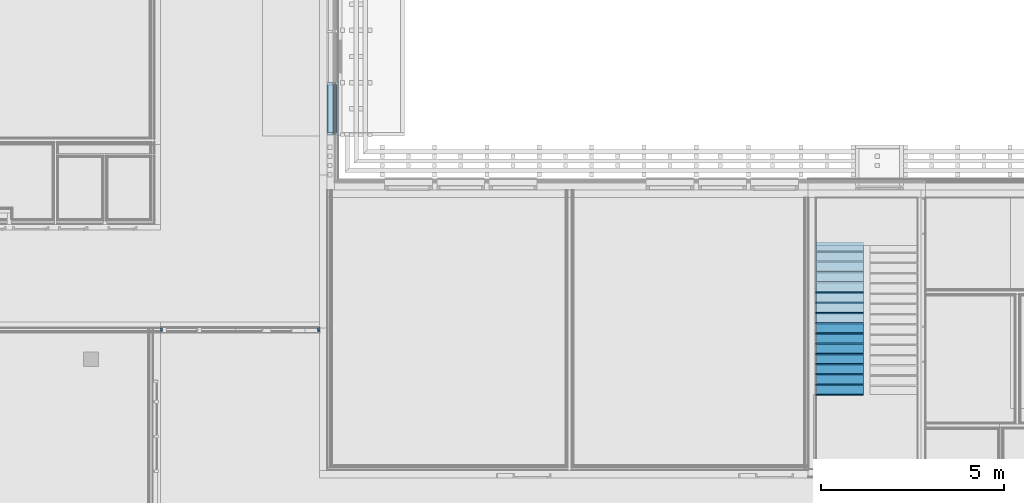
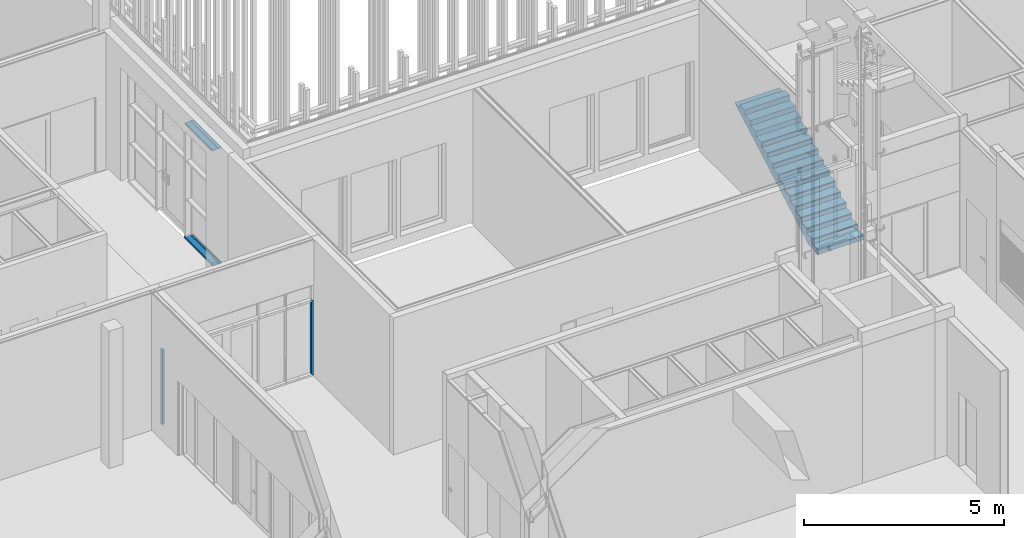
# One storey, part 84 of 260: 25 members, 4 elements without a shape of their own.
"""IFC2X3 building model written with IfcOpenShell, lengths in millimetres."""

from ifc_helpers import new_model, entity, si_unit, converted_unit, derived_unit, money_unit, direction, frame, origin_with_axes, place, context, subcontext, project, spatial, faceted_brep, material, type_object, element, aggregate, save


model = new_model("IFC2X3")

# Units and contexts
model_context = context("Model", 3, precision=0.01, world=origin_with_axes(), true_north=direction((0.0, 1.0)))
body_context = subcontext(model_context, "Body", "Model", "MODEL_VIEW")
ifc_project = project(units=[si_unit("LENGTHUNIT", "METRE", prefix="MILLI"), si_unit("AREAUNIT", "SQUARE_METRE"), si_unit("VOLUMEUNIT", "CUBIC_METRE"), converted_unit("PLANEANGLEUNIT", "DEGREE", entity("IfcPlaneAngleMeasure", 0.0174532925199), si_unit("PLANEANGLEUNIT", "RADIAN"), dimensions=[0, 0, 0, 0, 0, 0, 0]), money_unit("EUR"), converted_unit("TIMEUNIT", "Year", entity("IfcTimeMeasure", 31556926.0), si_unit("TIMEUNIT", "SECOND"), dimensions=[0, 0, 1, 0, 0, 0, 0]), si_unit("MASSUNIT", "GRAM", prefix="KILO"), si_unit("THERMODYNAMICTEMPERATUREUNIT", "DEGREE_CELSIUS"), si_unit("LUMINOUSINTENSITYUNIT", "LUMEN"), si_unit("ENERGYUNIT", "JOULE", prefix="MEGA"), derived_unit("THERMALCONDUCTANCEUNIT", [(si_unit("POWERUNIT", "WATT"), 1), (si_unit("LENGTHUNIT", "METRE"), -1), (si_unit("THERMODYNAMICTEMPERATUREUNIT", "KELVIN"), -1)]), derived_unit("SPECIFICHEATCAPACITYUNIT", [(si_unit("ENERGYUNIT", "JOULE"), 1), (si_unit("MASSUNIT", "GRAM", prefix="KILO"), -1), (si_unit("THERMODYNAMICTEMPERATUREUNIT", "KELVIN"), -1)]), derived_unit("MASSDENSITYUNIT", [(si_unit("MASSUNIT", "GRAM", prefix="KILO"), 1), (si_unit("VOLUMEUNIT", "CUBIC_METRE"), -1)])], contexts=[model_context])

# Site, building, storey
site_placement = place(None, origin_with_axes())
site = spatial("IfcSite", under=ifc_project, at=site_placement, Name="Kolde pst 67a", CompositionType="ELEMENT")
building_placement = place(site_placement, origin_with_axes())
building = spatial("IfcBuilding", under=site, at=building_placement, Name="Riigigümnaasium", CompositionType="ELEMENT")
storey_placement = place(building_placement, origin_with_axes())
storey = spatial("IfcBuildingStorey", under=building, at=storey_placement, Name="1. korrus", CompositionType="ELEMENT", Elevation=0.0)

# Stair, members
stair_placement = place(storey_placement, frame((51080.0647046, 55109.9959971, 0.0), z_axis=(0.0, 0.0, 1.0), x_axis=(-2.45133837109e-05, 0.9999999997, 0.0)))
stair = element("IfcStair", 1, at=stair_placement, inside=storey, Name="TREPP", ShapeType="NOTDEFINED")
ifc_material_1 = material(Name="_KANDETARIND - raudbetoon C25/30 vastavalt EK osale")
member_type_1 = type_object("IfcMemberType", Name="IfcMember", PredefinedType="USERDEFINED")
member_1_placement = place(stair_placement, origin_with_axes())
member_1 = element("IfcMember", 2, at=member_1_placement, type_object=member_type_1, material=ifc_material_1, Name="TT KONSTRUKTSIOON - 010", ObjectType="Stair Structure", context=body_context, shape_type="Brep", body=[
    faceted_brep([(3639.99955388, -20.0489610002, 2190.68965517), (3639.99953115, -20.04896107, 2099.31034483), (3640.01721975, 1279.95103888, 2099.31034483), (3640.01721673, 1279.95103888, 2190.68965517), (3546.66627948, -20.0477136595, 1890.95799576), (3593.33291668, -20.0483413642, 1917.39477427), (3639.99953115, -20.04896107, 1943.8315399), (3914.45332988, -20.0526893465, 2099.31034483), (3389.99973068, -20.045598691, 2190.68965517), (3389.99973068, -20.045598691, 2032.06896552), (3109.9997307, -20.041832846, 2032.06896552), (3109.9997307, -20.041832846, 1873.44827586), (2829.99973073, -20.0380653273, 1873.44827586), (2829.99973073, -20.0380653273, 1714.82758621), (2549.99973075, -20.0342994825, 1714.82758621), (2549.99973075, -20.0342994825, 1556.20689655), (2269.99973078, -20.0305336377, 1556.20689655), (2269.99973078, -20.0305336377, 1397.5862069), (1989.9997308, -20.0267677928, 1397.5862069), (1989.9997308, -20.0267677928, 1238.96551724), (1709.99973083, -20.0230002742, 1238.96551724), (1709.99973083, -20.0230002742, 1080.34482759), (1429.99973085, -20.0192344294, 1080.34482759), (1429.99973085, -20.0192344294, 921.724137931), (1149.99973088, -20.0154685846, 921.724137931), (1149.99973088, -20.0154685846, 763.103448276), (869.999730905, -20.0117027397, 763.103448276), (869.999730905, -20.0117027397, 604.482758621), (589.99973093, -20.0079352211, 604.482758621), (589.99973093, -20.0079352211, 445.862068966), (309.999730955, -20.0041693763, 445.862068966), (309.999730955, -20.0041693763, 287.24137931), (29.9997309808, -20.0004035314, 287.24137931), (29.9997309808, -20.0004035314, 128.620689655), (-250.000268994, -19.9966376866, 128.620689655), (-250.000268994, -19.9966376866, 0.0), (208.714428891, -20.0028105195, 0.0), (279.999730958, -20.0037663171, 40.3832992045), (373.333064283, -20.0050217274, 93.2568624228), (466.666397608, -20.0062771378, 146.130425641), (559.999730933, -20.0075324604, 199.00398886), (653.333064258, -20.0087878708, 251.877552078), (746.666397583, -20.0100432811, 304.751115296), (839.999730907, -20.0112986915, 357.624678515), (933.333064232, -20.0125541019, 410.498241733), (1026.66639756, -20.0138095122, 463.371804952), (1119.99973088, -20.0150649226, 516.24536817), (1213.33306421, -20.0163257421, 569.118931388), (1306.66639753, -20.0175811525, 621.992494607), (1399.99973086, -20.0188325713, 674.866057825), (1493.33306418, -20.0200879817, 727.739621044), (1586.66639751, -20.0213433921, 780.613184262), (1679.99973083, -20.0225973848, 833.48674748), (1773.33306416, -20.0238527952, 886.360310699), (1866.66639748, -20.0251082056, 939.233873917), (1959.99973081, -20.0263636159, 992.107437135), (2053.33306413, -20.0276190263, 1044.98100035), (2146.66639746, -20.0288744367, 1097.85456357), (2239.99973078, -20.030129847, 1150.72812679), (2333.33306411, -20.0313919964, 1203.60169001), (2426.66639743, -20.0326474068, 1256.47525323), (2519.99973076, -20.0338988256, 1309.34881644), (2613.33306408, -20.035154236, 1362.22237962), (2706.66639741, -20.0364096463, 1415.09594272), (2799.99973073, -20.0376623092, 1467.96950577), (2846.66639739, -20.0382900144, 1494.40628704), (2893.33306406, -20.0389177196, 1520.84306831), (2939.99973072, -20.0395454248, 1547.2798495), (2986.66639738, -20.04017313, 1573.71663068), (3033.33306404, -20.0408008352, 1600.15341171), (3079.9997307, -20.0414285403, 1626.59019274), (3126.66639737, -20.0420562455, 1653.02697506), (3173.33306403, -20.0426839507, 1679.46375739), (3219.99973069, -20.0433116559, 1705.90053948), (3266.66639735, -20.0439393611, 1732.33732157), (3313.33306402, -20.0445670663, 1758.77410513), (3359.99973068, -20.0451947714, 1785.21088869), (3406.66636788, -20.0458305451, 1811.6476646), (3453.33300508, -20.0464582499, 1838.08444051), (3499.99964228, -20.0470859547, 1864.52121814), (3914.47100043, 1279.9473106, 2099.31034483), (3390.01721675, 1279.95440206, 2190.68965517), (3640.01721975, 1279.95103888, 1943.83155449), (3593.35055006, 1279.95167145, 1917.39477472), (3546.6838834, 1279.95229915, 1890.95799665), (3500.01721674, 1279.95292686, 1864.52121839), (3453.35055008, 1279.95355456, 1838.08444012), (3406.68388342, 1279.95418227, 1811.64766127), (3360.01721675, 1279.95480997, 1785.21088242), (3313.35055009, 1279.95543768, 1758.77410163), (3266.68388343, 1279.95606539, 1732.33732084), (3220.01721677, 1279.95669309, 1705.90053967), (3173.3505501, 1279.9573208, 1679.4637585), (3126.68388344, 1279.9579485, 1653.02697719), (3080.01721678, 1279.95857621, 1626.59019589), (3033.35055012, 1279.95920391, 1600.15341429), (2986.68388345, 1279.95983162, 1573.71663268), (2940.01721679, 1279.96045932, 1547.27985105), (2893.35055013, 1279.96108703, 1520.84306941), (2846.68388347, 1279.96171473, 1494.40628777), (2800.0172168, 1279.96234244, 1467.96950606), (2706.68388348, 1279.96359785, 1415.09594287), (2613.35055015, 1279.96485326, 1362.22237966), (2520.01721683, 1279.96610867, 1309.34881644), (2426.6838835, 1279.96736408, 1256.47525322), (2333.35055018, 1279.96861949, 1203.60169001), (2240.01721685, 1279.9698749, 1150.72812679), (2146.68388353, 1279.97113031, 1097.85456357), (2053.3505502, 1279.97238572, 1044.98100035), (1960.01721688, 1279.97364113, 992.107437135), (1866.68388355, 1279.97489654, 939.233873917), (1773.35055023, 1279.97615195, 886.360310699), (1680.0172169, 1279.97740736, 833.48674748), (1586.68388358, 1279.97866277, 780.613184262), (1493.35055025, 1279.97991818, 727.739621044), (1400.01721693, 1279.98117359, 674.866057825), (1306.68388361, 1279.982429, 621.992494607), (1213.35055028, 1279.98368441, 569.118931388), (1120.01721696, 1279.98493982, 516.24536817), (1026.68388363, 1279.98619523, 463.371804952), (933.350550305, 1279.98745064, 410.498241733), (840.017216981, 1279.98870605, 357.624678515), (746.683883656, 1279.98996147, 304.751115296), (653.350550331, 1279.99121688, 251.877552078), (560.017217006, 1279.99247229, 199.00398886), (466.683883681, 1279.9937277, 146.130425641), (373.350550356, 1279.99498311, 93.2568624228), (280.017217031, 1279.99623852, 40.3832992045), (208.731914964, 1279.99719736, 0.0), (-249.982782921, 1280.00336306, 0.0), (-249.982782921, 1280.00336306, 128.620689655), (30.0172170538, 1279.99959683, 128.620689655), (30.0172170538, 1279.99959683, 287.24137931), (310.017217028, 1279.9958306, 287.24137931), (310.017217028, 1279.9958306, 445.862068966), (590.017217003, 1279.99206437, 445.862068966), (590.017217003, 1279.99206437, 604.482758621), (870.017216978, 1279.98829814, 604.482758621), (870.017216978, 1279.98829814, 763.103448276), (1150.01721695, 1279.98453191, 763.103448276), (1150.01721695, 1279.98453191, 921.724137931), (1430.01721693, 1279.98076567, 921.724137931), (1430.01721693, 1279.98076567, 1080.34482759), (1710.0172169, 1279.97699944, 1080.34482759), (1710.0172169, 1279.97699944, 1238.96551724), (1990.01721688, 1279.97323321, 1238.96551724), (1990.01721688, 1279.97323321, 1397.5862069), (2270.01721685, 1279.96946698, 1397.5862069), (2270.01721685, 1279.96946698, 1556.20689655), (2550.01721683, 1279.96570075, 1556.20689655), (2550.01721683, 1279.96570075, 1714.82758621), (2830.0172168, 1279.96193452, 1714.82758621), (2830.0172168, 1279.96193452, 1873.44827586), (3110.01721678, 1279.95816829, 1873.44827586), (3110.01721678, 1279.95816829, 2032.06896552), (3390.01721675, 1279.95440206, 2032.06896552), (3546.67068046, 304.952289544, 1890.95799598), (3640.0039533, 304.951034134, 1943.83154355), (3640.0127976, 954.951040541, 1943.83155085), (2800.01284528, 954.962341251, 1467.96950601), (2800.00410225, 304.962338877, 1467.96950586), (2893.33743557, 304.961083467, 1520.84306859), (2986.6707689, 304.959828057, 1573.71663118), (3080.00410222, 304.958572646, 1626.59019353), (3173.33743555, 304.957317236, 1679.46375767), (3266.67076887, 304.956061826, 1732.33732139), (3360.0041022, 304.954806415, 1785.21088712), (3453.33739133, 304.953544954, 1838.08444041), (3546.67948242, 954.952295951, 1890.95799643), (3453.34616383, 954.953551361, 1838.08444022), (3360.01284523, 954.954808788, 1785.21088399), (3266.67951191, 954.956064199, 1732.33732102), (3173.34617858, 954.957319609, 1679.46375822), (3080.01284526, 954.958575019, 1626.5901951), (2986.67951193, 954.95983043, 1573.71663218), (2893.34617861, 954.96108584, 1520.84306914), (3593.34173337, 629.951665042, 1917.39477449), (2846.67514043, 629.961712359, 1494.40628741), (2940.00847375, 629.960456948, 1547.27985027), (3033.34180708, 629.959201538, 1600.153413), (3126.6751404, 629.957946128, 1653.02697613), (3220.00847373, 629.956690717, 1705.90053958), (3313.34180705, 629.955435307, 1758.77410338), (3406.67512565, 629.954175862, 1811.64766294), (3500.00842951, 629.952920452, 1864.52121826)], [[[0, 1, 2, 3]], [[4, 5, 6, 7, 1, 0, 8, 9, 10, 11, 12, 13, 14, 15, 16, 17, 18, 19, 20, 21, 22, 23, 24, 25, 26, 27, 28, 29, 30, 31, 32, 33, 34, 35, 36, 37, 38, 39, 40, 41, 42, 43, 44, 45, 46, 47, 48, 49, 50, 51, 52, 53, 54, 55, 56, 57, 58, 59, 60, 61, 62, 63, 64, 65, 66, 67, 68, 69, 70, 71, 72, 73, 74, 75, 76, 77, 78, 79]], [[80, 2, 1, 7]], [[81, 3, 2, 80, 82, 83, 84, 85, 86, 87, 88, 89, 90, 91, 92, 93, 94, 95, 96, 97, 98, 99, 100, 101, 102, 103, 104, 105, 106, 107, 108, 109, 110, 111, 112, 113, 114, 115, 116, 117, 118, 119, 120, 121, 122, 123, 124, 125, 126, 127, 128, 129, 130, 131, 132, 133, 134, 135, 136, 137, 138, 139, 140, 141, 142, 143, 144, 145, 146, 147, 148, 149, 150, 151, 152, 153, 154, 155]], [[8, 0, 3, 81]], [[5, 4, 156]], [[5, 157, 6]], [[7, 6, 157, 158, 82, 80]], [[155, 9, 8, 81]], [[155, 154, 10, 9]], [[153, 11, 10, 154]], [[153, 152, 12, 11]], [[151, 13, 12, 152]], [[151, 150, 14, 13]], [[149, 15, 14, 150]], [[149, 148, 16, 15]], [[147, 17, 16, 148]], [[147, 146, 18, 17]], [[145, 19, 18, 146]], [[145, 144, 20, 19]], [[143, 21, 20, 144]], [[143, 142, 22, 21]], [[141, 23, 22, 142]], [[141, 140, 24, 23]], [[139, 25, 24, 140]], [[139, 138, 26, 25]], [[137, 27, 26, 138]], [[137, 136, 28, 27]], [[135, 29, 28, 136]], [[135, 134, 30, 29]], [[133, 31, 30, 134]], [[133, 132, 32, 31]], [[131, 33, 32, 132]], [[131, 130, 34, 33]], [[130, 129, 35, 34]], [[35, 129, 128, 36]], [[128, 127, 37, 36]], [[127, 126, 38, 37]], [[126, 125, 39, 38]], [[125, 124, 40, 39]], [[124, 123, 41, 40]], [[123, 122, 42, 41]], [[122, 121, 43, 42]], [[121, 120, 44, 43]], [[120, 119, 45, 44]], [[119, 118, 46, 45]], [[118, 117, 47, 46]], [[117, 116, 48, 47]], [[116, 115, 49, 48]], [[115, 114, 50, 49]], [[114, 113, 51, 50]], [[113, 112, 52, 51]], [[112, 111, 53, 52]], [[111, 110, 54, 53]], [[110, 109, 55, 54]], [[109, 108, 56, 55]], [[108, 107, 57, 56]], [[107, 106, 58, 57]], [[106, 105, 59, 58]], [[105, 104, 60, 59]], [[104, 103, 61, 60]], [[103, 102, 62, 61]], [[102, 101, 63, 62]], [[101, 100, 159, 160, 64, 63]], [[65, 64, 160]], [[66, 65, 161]], [[67, 66, 161]], [[68, 67, 162]], [[69, 68, 162]], [[70, 69, 163]], [[71, 70, 163]], [[72, 71, 164]], [[73, 72, 164]], [[74, 73, 165]], [[75, 74, 165]], [[76, 75, 166]], [[77, 76, 166]], [[78, 77, 167]], [[79, 78, 167]], [[4, 79, 156]], [[83, 82, 158]], [[84, 83, 168]], [[85, 84, 168]], [[86, 85, 169]], [[87, 86, 169]], [[88, 87, 170]], [[89, 88, 170]], [[90, 89, 171]], [[91, 90, 171]], [[92, 91, 172]], [[93, 92, 172]], [[94, 93, 173]], [[95, 94, 173]], [[96, 95, 174]], [[97, 96, 174]], [[98, 97, 175]], [[99, 98, 175]], [[100, 99, 159]], [[157, 5, 156, 176]], [[176, 158, 157]], [[177, 160, 159]], [[161, 65, 160, 177]], [[162, 67, 161, 178]], [[163, 69, 162, 179]], [[180, 164, 71, 163]], [[165, 73, 164, 181]], [[166, 75, 165, 182]], [[183, 167, 77, 166]], [[184, 156, 79, 167]], [[83, 158, 176, 168]], [[168, 184, 169, 85]], [[169, 183, 170, 87]], [[89, 170, 182, 171]], [[91, 171, 181, 172]], [[172, 180, 173, 93]], [[95, 173, 179, 174]], [[174, 178, 175, 97]], [[99, 175, 177, 159]], [[168, 176, 156]], [[175, 161, 177]], [[175, 178, 161]], [[174, 162, 178]], [[179, 162, 174]], [[173, 163, 179]], [[172, 164, 180]], [[180, 163, 173]], [[181, 164, 172]], [[165, 181, 171]], [[182, 165, 171]], [[170, 166, 182]], [[167, 183, 169]], [[170, 183, 166]], [[168, 156, 184]], [[169, 184, 167]]]),
])
ifc_material_2 = material(Name="_VIIMISTLUSKIHT - viimistlus vastavalt SA osale")
member_type_2 = type_object("IfcMemberType", Name="IfcMember", PredefinedType="USERDEFINED")
member_2_placement = place(stair_placement, frame((-279.991256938, 650.003766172, 128.620689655), z_axis=(0.0, 0.0, 1.0), x_axis=(1.34508253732e-05, 0.99999999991, 0.0)))
member_2 = element("IfcMember", 3, at=member_2_placement, type_object=member_type_2, material=ifc_material_2, Name="TV TÕUS - 146", ObjectType="Stair Riser", context=body_context, shape_type="Brep", body=[
    faceted_brep([(630.0, 0.0, 0.0), (-670.0, 0.0, 0.0), (-670.0, -30.0, 0.0), (630.0, -30.0, 0.0), (630.0, 0.0, -128.620689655), (-670.0, 0.0, -128.620689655), (-670.0, -30.0, -128.620689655), (630.0, -30.0, -128.620689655)], [[[0, 1, 2, 3]], [[4, 5, 1, 0]], [[1, 5, 6, 2]], [[3, 2, 6, 7]], [[0, 3, 7, 4]], [[7, 6, 5, 4]]]),
])
member_3_placement = place(stair_placement, frame((0.00874303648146, 649.999999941, 287.24137931), z_axis=(0.0, 0.0, 1.0), x_axis=(1.34508253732e-05, 0.99999999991, 0.0)))
member_3 = element("IfcMember", 4, at=member_3_placement, type_object=member_type_2, material=ifc_material_2, Name="TV TÕUS - 147", ObjectType="Stair Riser", context=body_context, shape_type="Brep", body=[
    faceted_brep([(630.0, 0.0, 0.0), (-670.0, 0.0, 0.0), (-670.0, -30.0, 0.0), (630.0, -30.0, 0.0), (630.0, 0.0, -128.620689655), (-670.0, 0.0, -128.620689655), (-670.0, -30.0, -128.620689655), (630.0, -30.0, -128.620689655)], [[[0, 1, 2, 3]], [[4, 5, 1, 0]], [[1, 5, 6, 2]], [[3, 2, 6, 7]], [[0, 3, 7, 4]], [[7, 6, 5, 4]]]),
])
member_4_placement = place(stair_placement, frame((280.008743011, 649.99623371, 445.862068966), z_axis=(0.0, 0.0, 1.0), x_axis=(1.34508253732e-05, 0.99999999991, 0.0)))
member_4 = element("IfcMember", 5, at=member_4_placement, type_object=member_type_2, material=ifc_material_2, Name="TV TÕUS - 148", ObjectType="Stair Riser", context=body_context, shape_type="Brep", body=[
    faceted_brep([(630.0, 0.0, 0.0), (-670.0, 0.0, 0.0), (-670.0, -30.0, 0.0), (630.0, -30.0, 0.0), (630.0, 0.0, -128.620689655), (-670.0, 0.0, -128.620689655), (-670.0, -30.0, -128.620689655), (630.0, -30.0, -128.620689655)], [[[0, 1, 2, 3]], [[4, 5, 1, 0]], [[1, 5, 6, 2]], [[3, 2, 6, 7]], [[0, 3, 7, 4]], [[7, 6, 5, 4]]]),
])
member_5_placement = place(stair_placement, frame((560.008742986, 649.992467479, 604.482758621), z_axis=(0.0, 0.0, 1.0), x_axis=(1.34508253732e-05, 0.99999999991, 0.0)))
member_5 = element("IfcMember", 6, at=member_5_placement, type_object=member_type_2, material=ifc_material_2, Name="TV TÕUS - 149", ObjectType="Stair Riser", context=body_context, shape_type="Brep", body=[
    faceted_brep([(630.0, 0.0, 0.0), (-670.0, 0.0, 0.0), (-670.0, -30.0, 0.0), (630.0, -30.0, 0.0), (630.0, 0.0, -128.620689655), (-670.0, 0.0, -128.620689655), (-670.0, -30.0, -128.620689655), (630.0, -30.0, -128.620689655)], [[[0, 1, 2, 3]], [[4, 5, 1, 0]], [[1, 5, 6, 2]], [[3, 2, 6, 7]], [[0, 3, 7, 4]], [[7, 6, 5, 4]]]),
])
member_6_placement = place(stair_placement, frame((840.00874296, 649.988701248, 763.103448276), z_axis=(0.0, 0.0, 1.0), x_axis=(1.34508253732e-05, 0.99999999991, 0.0)))
member_6 = element("IfcMember", 7, at=member_6_placement, type_object=member_type_2, material=ifc_material_2, Name="TV TÕUS - 150", ObjectType="Stair Riser", context=body_context, shape_type="Brep", body=[
    faceted_brep([(630.0, 0.0, 0.0), (-670.0, 0.0, 0.0), (-670.0, -30.0, 0.0), (630.0, -30.0, 0.0), (630.0, 0.0, -128.620689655), (-670.0, 0.0, -128.620689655), (-670.0, -30.0, -128.620689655), (630.0, -30.0, -128.620689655)], [[[0, 1, 2, 3]], [[4, 5, 1, 0]], [[1, 5, 6, 2]], [[3, 2, 6, 7]], [[0, 3, 7, 4]], [[7, 6, 5, 4]]]),
])
member_7_placement = place(stair_placement, frame((1120.00874294, 649.984935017, 921.724137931), z_axis=(0.0, 0.0, 1.0), x_axis=(1.3450825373e-05, 0.99999999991, 0.0)))
member_7 = element("IfcMember", 8, at=member_7_placement, type_object=member_type_2, material=ifc_material_2, Name="TV TÕUS - 151", ObjectType="Stair Riser", context=body_context, shape_type="Brep", body=[
    faceted_brep([(630.0, 0.0, 0.0), (-670.0, 0.0, 0.0), (-670.0, -30.0, 0.0), (630.0, -30.0, 0.0), (630.0, 0.0, -128.620689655), (-670.0, 0.0, -128.620689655), (-670.0, -30.0, -128.620689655), (630.0, -30.0, -128.620689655)], [[[0, 1, 2, 3]], [[4, 5, 1, 0]], [[1, 5, 6, 2]], [[3, 2, 6, 7]], [[0, 3, 7, 4]], [[7, 6, 5, 4]]]),
])
member_8_placement = place(stair_placement, frame((1400.00874291, 649.981168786, 1080.34482759), z_axis=(0.0, 0.0, 1.0), x_axis=(1.3450825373e-05, 0.99999999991, 0.0)))
member_8 = element("IfcMember", 9, at=member_8_placement, type_object=member_type_2, material=ifc_material_2, Name="TV TÕUS - 152", ObjectType="Stair Riser", context=body_context, shape_type="Brep", body=[
    faceted_brep([(630.0, 0.0, 0.0), (-670.0, 0.0, 0.0), (-670.0, -30.0, 0.0), (630.0, -30.0, 0.0), (630.0, 0.0, -128.620689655), (-670.0, 0.0, -128.620689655), (-670.0, -30.0, -128.620689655), (630.0, -30.0, -128.620689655)], [[[0, 1, 2, 3]], [[4, 5, 1, 0]], [[1, 5, 6, 2]], [[3, 2, 6, 7]], [[0, 3, 7, 4]], [[7, 6, 5, 4]]]),
])
member_9_placement = place(stair_placement, frame((1680.00874288, 649.977402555, 1238.96551724), z_axis=(0.0, 0.0, 1.0), x_axis=(1.34508253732e-05, 0.99999999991, 0.0)))
member_9 = element("IfcMember", 10, at=member_9_placement, type_object=member_type_2, material=ifc_material_2, Name="TV TÕUS - 153", ObjectType="Stair Riser", context=body_context, shape_type="Brep", body=[
    faceted_brep([(630.0, 0.0, 0.0), (-670.0, 0.0, 0.0), (-670.0, -30.0, 0.0), (630.0, -30.0, 0.0), (630.0, 0.0, -128.620689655), (-670.0, 0.0, -128.620689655), (-670.0, -30.0, -128.620689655), (630.0, -30.0, -128.620689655)], [[[0, 1, 2, 3]], [[4, 5, 1, 0]], [[1, 5, 6, 2]], [[3, 2, 6, 7]], [[0, 3, 7, 4]], [[7, 6, 5, 4]]]),
])
member_10_placement = place(stair_placement, frame((1960.00874286, 649.973636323, 1397.5862069), z_axis=(0.0, 0.0, 1.0), x_axis=(1.34508253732e-05, 0.99999999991, 0.0)))
member_10 = element("IfcMember", 11, at=member_10_placement, type_object=member_type_2, material=ifc_material_2, Name="TV TÕUS - 154", ObjectType="Stair Riser", context=body_context, shape_type="Brep", body=[
    faceted_brep([(630.0, 0.0, 0.0), (-670.0, 0.0, 0.0), (-670.0, -30.0, 0.0), (630.0, -30.0, 0.0), (630.0, 0.0, -128.620689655), (-670.0, 0.0, -128.620689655), (-670.0, -30.0, -128.620689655), (630.0, -30.0, -128.620689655)], [[[0, 1, 2, 3]], [[4, 5, 1, 0]], [[1, 5, 6, 2]], [[3, 2, 6, 7]], [[0, 3, 7, 4]], [[7, 6, 5, 4]]]),
])
member_11_placement = place(stair_placement, frame((2240.00874283, 649.969870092, 1556.20689655), z_axis=(0.0, 0.0, 1.0), x_axis=(1.34508253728e-05, 0.99999999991, 0.0)))
member_11 = element("IfcMember", 12, at=member_11_placement, type_object=member_type_2, material=ifc_material_2, Name="TV TÕUS - 155", ObjectType="Stair Riser", context=body_context, shape_type="Brep", body=[
    faceted_brep([(630.0, 0.0, 0.0), (-670.0, 0.0, 0.0), (-670.0, -30.0, 0.0), (630.0, -30.0, 0.0), (630.0, 0.0, -128.620689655), (-670.0, 0.0, -128.620689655), (-670.0, -30.0, -128.620689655), (630.0, -30.0, -128.620689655)], [[[0, 1, 2, 3]], [[4, 5, 1, 0]], [[1, 5, 6, 2]], [[3, 2, 6, 7]], [[0, 3, 7, 4]], [[7, 6, 5, 4]]]),
])
member_12_placement = place(stair_placement, frame((2520.00874281, 649.966103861, 1714.82758621), z_axis=(0.0, 0.0, 1.0), x_axis=(1.34508253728e-05, 0.99999999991, 0.0)))
member_12 = element("IfcMember", 13, at=member_12_placement, type_object=member_type_2, material=ifc_material_2, Name="TV TÕUS - 156", ObjectType="Stair Riser", context=body_context, shape_type="Brep", body=[
    faceted_brep([(630.0, 0.0, 0.0), (-670.0, 0.0, 0.0), (-670.0, -30.0, 0.0), (630.0, -30.0, 0.0), (630.0, 0.0, -128.620689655), (-670.0, 0.0, -128.620689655), (-670.0, -30.0, -128.620689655), (630.0, -30.0, -128.620689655)], [[[0, 1, 2, 3]], [[4, 5, 1, 0]], [[1, 5, 6, 2]], [[3, 2, 6, 7]], [[0, 3, 7, 4]], [[7, 6, 5, 4]]]),
])
member_type_3 = type_object("IfcMemberType", Name="IfcMember", PredefinedType="USERDEFINED")
member_13_placement = place(stair_placement, frame((-279.991256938, 650.003766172, 158.620689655), z_axis=(0.0, 0.0, 1.0), x_axis=(1.34508253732e-05, 0.99999999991, 0.0)))
member_13 = element("IfcMember", 14, at=member_13_placement, type_object=member_type_3, material=ifc_material_2, Name="TV ASTE - 146", ObjectType="Stair Tread", context=body_context, shape_type="Brep", body=[
    faceted_brep([(-670.0, 0.0, -30.0), (-670.0, 0.0, 0.0), (630.0, 0.0, 0.0), (630.0, 0.0, -30.0), (-670.0, -309.999993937, -30.0), (-670.0, -309.999993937, 0.0), (630.0, -310.00000041, 0.0), (630.0, -310.00000041, -30.0)], [[[0, 1, 2, 3]], [[4, 5, 1, 0]], [[1, 5, 6, 2]], [[3, 2, 6, 7]], [[0, 3, 7, 4]], [[7, 6, 5, 4]]]),
])
member_14_placement = place(stair_placement, frame((0.00874303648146, 649.999999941, 317.24137931), z_axis=(0.0, 0.0, 1.0), x_axis=(1.34508253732e-05, 0.99999999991, 0.0)))
member_14 = element("IfcMember", 15, at=member_14_placement, type_object=member_type_3, material=ifc_material_2, Name="TV ASTE - 147", ObjectType="Stair Tread", context=body_context, shape_type="Brep", body=[
    faceted_brep([(-670.0, 0.0, -30.0), (-670.0, 0.0, 0.0), (630.0, 0.0, 0.0), (630.0, 0.0, -30.0), (-670.0, -309.999993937, -30.0), (-670.0, -309.999993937, 0.0), (630.0, -310.00000041, 0.0), (630.0, -310.00000041, -30.0)], [[[0, 1, 2, 3]], [[4, 5, 1, 0]], [[1, 5, 6, 2]], [[3, 2, 6, 7]], [[0, 3, 7, 4]], [[7, 6, 5, 4]]]),
])
member_15_placement = place(stair_placement, frame((280.008743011, 649.99623371, 475.862068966), z_axis=(0.0, 0.0, 1.0), x_axis=(1.34508253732e-05, 0.99999999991, 0.0)))
member_15 = element("IfcMember", 16, at=member_15_placement, type_object=member_type_3, material=ifc_material_2, Name="TV ASTE - 148", ObjectType="Stair Tread", context=body_context, shape_type="Brep", body=[
    faceted_brep([(-670.0, 0.0, -30.0), (-670.0, 0.0, 0.0), (630.0, 0.0, 0.0), (630.0, 0.0, -30.0), (-670.0, -309.999993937, -30.0), (-670.0, -309.999993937, 0.0), (630.0, -310.00000041, 0.0), (630.0, -310.00000041, -30.0)], [[[0, 1, 2, 3]], [[4, 5, 1, 0]], [[1, 5, 6, 2]], [[3, 2, 6, 7]], [[0, 3, 7, 4]], [[7, 6, 5, 4]]]),
])
member_16_placement = place(stair_placement, frame((560.008742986, 649.992467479, 634.482758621), z_axis=(0.0, 0.0, 1.0), x_axis=(1.34508253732e-05, 0.99999999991, 0.0)))
member_16 = element("IfcMember", 17, at=member_16_placement, type_object=member_type_3, material=ifc_material_2, Name="TV ASTE - 149", ObjectType="Stair Tread", context=body_context, shape_type="Brep", body=[
    faceted_brep([(-670.0, 0.0, -30.0), (-670.0, 0.0, 0.0), (630.0, 0.0, 0.0), (630.0, 0.0, -30.0), (-670.0, -309.999993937, -30.0), (-670.0, -309.999993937, 0.0), (630.0, -310.00000041, 0.0), (630.0, -310.00000041, -30.0)], [[[0, 1, 2, 3]], [[4, 5, 1, 0]], [[1, 5, 6, 2]], [[3, 2, 6, 7]], [[0, 3, 7, 4]], [[7, 6, 5, 4]]]),
])
member_17_placement = place(stair_placement, frame((840.00874296, 649.988701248, 793.103448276), z_axis=(0.0, 0.0, 1.0), x_axis=(1.34508253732e-05, 0.99999999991, 0.0)))
member_17 = element("IfcMember", 18, at=member_17_placement, type_object=member_type_3, material=ifc_material_2, Name="TV ASTE - 150", ObjectType="Stair Tread", context=body_context, shape_type="Brep", body=[
    faceted_brep([(-670.0, 0.0, -30.0), (-670.0, 0.0, 0.0), (630.0, 0.0, 0.0), (630.0, 0.0, -30.0), (-670.0, -309.999993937, -30.0), (-670.0, -309.999993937, 0.0), (630.0, -310.00000041, 0.0), (630.0, -310.00000041, -30.0)], [[[0, 1, 2, 3]], [[4, 5, 1, 0]], [[1, 5, 6, 2]], [[3, 2, 6, 7]], [[0, 3, 7, 4]], [[7, 6, 5, 4]]]),
])
member_18_placement = place(stair_placement, frame((1120.00874294, 649.984935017, 951.724137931), z_axis=(0.0, 0.0, 1.0), x_axis=(1.3450825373e-05, 0.99999999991, 0.0)))
member_18 = element("IfcMember", 19, at=member_18_placement, type_object=member_type_3, material=ifc_material_2, Name="TV ASTE - 151", ObjectType="Stair Tread", context=body_context, shape_type="Brep", body=[
    faceted_brep([(-670.0, 0.0, -30.0), (-670.0, 0.0, 0.0), (630.0, 0.0, 0.0), (630.0, 0.0, -30.0), (-670.0, -309.999993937, -30.0), (-670.0, -309.999993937, 0.0), (630.0, -310.00000041, 0.0), (630.0, -310.00000041, -30.0)], [[[0, 1, 2, 3]], [[4, 5, 1, 0]], [[1, 5, 6, 2]], [[3, 2, 6, 7]], [[0, 3, 7, 4]], [[7, 6, 5, 4]]]),
])
member_19_placement = place(stair_placement, frame((1400.00874291, 649.981168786, 1110.34482759), z_axis=(0.0, 0.0, 1.0), x_axis=(1.3450825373e-05, 0.99999999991, 0.0)))
member_19 = element("IfcMember", 20, at=member_19_placement, type_object=member_type_3, material=ifc_material_2, Name="TV ASTE - 152", ObjectType="Stair Tread", context=body_context, shape_type="Brep", body=[
    faceted_brep([(-670.0, 0.0, -30.0), (-670.0, 0.0, 0.0), (630.0, 0.0, 0.0), (630.0, 0.0, -30.0), (-670.0, -309.999993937, -30.0), (-670.0, -309.999993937, 0.0), (630.0, -310.00000041, 0.0), (630.0, -310.00000041, -30.0)], [[[0, 1, 2, 3]], [[4, 5, 1, 0]], [[1, 5, 6, 2]], [[3, 2, 6, 7]], [[0, 3, 7, 4]], [[7, 6, 5, 4]]]),
])
aggregate(stair, [member_1, member_2, member_3, member_4, member_5, member_6, member_7, member_8, member_9, member_10, member_11, member_12, member_13, member_14, member_15, member_16, member_17, member_18, member_19])

# Curtain wall, members
curtain_wall_type = type_object("IfcCurtainWallType", Name="Curtain Wall Type", PredefinedType="NOTDEFINED")
curtain_wall_1_placement = place(storey_placement, frame((36659.99923, 65497.2568144, -5.3341346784e-05), z_axis=(0.0, 0.0, 1.0), x_axis=(1.0, 0.0, 0.0)))
curtain_wall_1 = element("IfcCurtainWall", 21, at=curtain_wall_1_placement, inside=storey, type_object=curtain_wall_type, Name="KLAASFASSAAD")
ifc_material_3 = material(Name="_METALL - alumiinium")
member_type_4 = type_object("IfcMemberType", Name="Boundary Frame 50 x 100", PredefinedType="MEMBER")
member_20_placement = place(curtain_wall_1_placement, frame((0.0, -2140.2233959, 0.0), z_axis=(0.0, -1.0, 0.0), x_axis=(0.0, 0.0, 1.0)))
member_20 = element("IfcMember", 22, at=member_20_placement, type_object=member_type_4, material=ifc_material_3, Name="RF RAAM SERV-754", ObjectType="MEMBER", context=body_context, shape_type="Brep", body=[
    faceted_brep([(30.0, 16.5, 1375.83848383), (50.0, 16.5, 1355.83848383), (50.0, 60.0, 1355.83848383), (0.0, 60.0, 1405.83848383), (0.0, -40.0, 1405.83848383), (50.0, -40.0, 1355.83848383), (50.0, -16.5, 1355.83848383), (30.0, -16.5, 1375.83848383), (30.0, 16.5, -25.0), (50.0, 16.5, -25.0), (50.0, 60.0, -25.0), (0.0, 60.0, -25.0), (0.0, -40.0, -25.0), (50.0, -40.0, -25.0), (50.0, -16.5, -25.0), (30.0, -16.5, -25.0)], [[[0, 1, 2, 3, 4, 5, 6, 7]], [[0, 8, 9, 1]], [[9, 10, 2, 1]], [[10, 11, 3, 2]], [[11, 12, 4, 3]], [[12, 13, 5, 4]], [[6, 5, 13, 14]], [[14, 15, 7, 6]], [[7, 15, 8, 0]], [[8, 15, 14, 13, 12, 11, 10, 9]]]),
])
member_21_placement = place(curtain_wall_1_placement, frame((0.0, -2140.2233959, 3540.00023603), z_axis=(0.0, -1.0, 0.0), x_axis=(0.0, 0.0, 1.0)))
member_21 = element("IfcMember", 23, at=member_21_placement, type_object=member_type_4, material=ifc_material_3, Name="RF RAAM SERV-758", ObjectType="MEMBER", context=body_context, shape_type="Brep", body=[
    faceted_brep([(-30.0, 16.5, 1375.83848383), (-30.0, -16.5, 1375.83848383), (-50.0, -16.5, 1355.83848383), (-50.0, -40.0, 1355.83848383), (0.0, -40.0, 1405.83848383), (0.0, 60.0, 1405.83848383), (-50.0, 60.0, 1355.83848383), (-50.0, 16.5, 1355.83848383), (-30.0, 16.5, 0.0), (-30.0, -16.5, 0.0), (-50.0, -16.5, 0.0), (-50.0, -40.0, 0.0), (0.0, -40.0, 0.0), (0.0, 60.0, 0.0), (-50.0, 60.0, 0.0), (-50.0, 16.5, 0.0)], [[[0, 1, 2, 3, 4, 5, 6, 7]], [[1, 0, 8, 9]], [[10, 2, 1, 9]], [[2, 10, 11, 3]], [[12, 4, 3, 11]], [[13, 5, 4, 12]], [[14, 6, 5, 13]], [[15, 7, 6, 14]], [[0, 7, 15, 8]], [[8, 15, 14, 13, 12, 11, 10, 9]]]),
])
aggregate(curtain_wall_1, [member_20, member_21])

curtain_wall_2_placement = place(storey_placement, frame((32274.8343542, 56679.9979478, 0.0), z_axis=(0.0, 0.0, 1.0), x_axis=(1.0, 0.0, 0.0)))
curtain_wall_2 = element("IfcCurtainWall", 24, at=curtain_wall_2_placement, inside=storey, type_object=curtain_wall_type, Name="KLAASSEIN")
ifc_material_4 = material(Name="_GENEERILINE MATERJAL")
member_22_placement = place(curtain_wall_2_placement, frame((3965.16486477, 0.0, 0.0), z_axis=(0.0, 0.0, 1.0), x_axis=(-1.0, 0.0, 0.0)))
member_22 = element("IfcMember", 25, at=member_22_placement, type_object=member_type_4, material=ifc_material_4, Name="RF RAAM SERV-201", ObjectType="MEMBER", context=body_context, shape_type="Brep", body=[
    faceted_brep([(50.0, 10.0, 50.0), (50.0, 100.0, 50.0), (50.0, 100.0, 2300.0), (50.0, 10.0, 2300.0), (25.0, 10.0, 25.0), (25.0, 0.0, 25.0), (0.0, 0.0, 0.0), (0.0, 100.0, 0.0), (0.0, 100.0, 2300.0), (25.0, 10.0, 2300.0), (0.0, 0.0, 2300.0), (25.0, 0.0, 2300.0)], [[[0, 1, 2, 3]], [[4, 5, 6, 7, 1, 0]], [[2, 1, 7, 8]], [[9, 3, 2, 8, 10, 11]], [[9, 4, 0, 3]], [[5, 4, 9, 11]], [[11, 10, 6, 5]], [[8, 7, 6, 10]]]),
])
member_23_placement = place(curtain_wall_2_placement, frame((-384.831534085, 0.0, 2300.0), z_axis=(0.0, 0.0, -1.0), x_axis=(1.0, 0.0, 0.0)))
member_23 = element("IfcMember", 26, at=member_23_placement, type_object=member_type_4, material=ifc_material_4, Name="RF RAAM SERV-210", ObjectType="MEMBER", context=body_context, shape_type="Brep", body=[
    faceted_brep([(50.0, 10.0, 0.0), (50.0, 100.0, 0.0), (50.0, 100.0, 2250.0), (50.0, 10.0, 2250.0), (25.0, 10.0, 0.0), (25.0, 0.0, 0.0), (0.0, 0.0, 0.0), (0.0, 100.0, 0.0), (0.0, 100.0, 2300.0), (25.0, 10.0, 2275.0), (0.0, 0.0, 2300.0), (25.0, 0.0, 2275.0)], [[[0, 1, 2, 3]], [[4, 5, 6, 7, 1, 0]], [[1, 7, 8, 2]], [[9, 3, 2, 8, 10, 11]], [[9, 4, 0, 3]], [[5, 4, 9, 11]], [[11, 10, 6, 5]], [[7, 6, 10, 8]]]),
])
aggregate(curtain_wall_2, [member_22, member_23])

curtain_wall_3_placement = place(storey_placement, frame((36599.99923, 65492.6817221, -5.3341346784e-05), z_axis=(0.0, 0.0, 1.0), x_axis=(1.0, 0.0, 0.0)))
curtain_wall_3 = element("IfcCurtainWall", 27, at=curtain_wall_3_placement, inside=storey, type_object=curtain_wall_type, Name="Klaasfassaadi puitkarkass")
ifc_material_5 = material(Name="_KANDETARIND - liimpuit vastavalt EK osale")
member_type_5 = type_object("IfcMemberType", Name="Boundary Frame 60 x 160", PredefinedType="MEMBER")
member_24_placement = place(curtain_wall_3_placement, frame((0.0, -2144.79847315, 0.0), z_axis=(0.0, -1.0, 0.0), x_axis=(0.0, 0.0, 1.0)))
member_24 = element("IfcMember", 28, at=member_24_placement, type_object=member_type_5, material=ifc_material_5, Name="RF RAAM SERV-640", ObjectType="MEMBER", context=body_context, shape_type="Brep", body=[
    faceted_brep([(60.0, 160.0, -30.0), (60.0, 160.0, 1336.68832865), (60.0, 0.0, 1336.68832865), (60.0, 0.0, -30.0), (0.0, 160.0, -30.0), (0.0, 160.0, 1396.68832865), (0.0, 0.0, 1396.68832865), (0.0, 0.0, -30.0)], [[[0, 1, 2, 3]], [[4, 5, 1, 0]], [[1, 5, 6, 2]], [[3, 2, 6, 7]], [[0, 3, 7, 4]], [[7, 6, 5, 4]]]),
])
member_25_placement = place(curtain_wall_3_placement, frame((0.0, -2144.79847315, 3540.00029996), z_axis=(0.0, -1.0, 0.0), x_axis=(0.0, 0.0, 1.0)))
member_25 = element("IfcMember", 29, at=member_25_placement, type_object=member_type_5, material=ifc_material_5, Name="RF RAAM SERV-644", ObjectType="MEMBER", context=body_context, shape_type="Brep", body=[
    faceted_brep([(-60.0, 160.0, 0.0), (-60.0, 0.0, 0.0), (-60.0, 0.0, 1336.68832865), (-60.0, 160.0, 1336.68832865), (0.0, 160.0, 0.0), (0.0, 0.0, 0.0), (0.0, 0.0, 1396.68832865), (0.0, 160.0, 1396.68832865)], [[[0, 1, 2, 3]], [[0, 4, 5, 1]], [[1, 5, 6, 2]], [[3, 2, 6, 7]], [[4, 0, 3, 7]], [[5, 4, 7, 6]]]),
])
aggregate(curtain_wall_3, [member_24, member_25])

save(model, "model.ifc")
